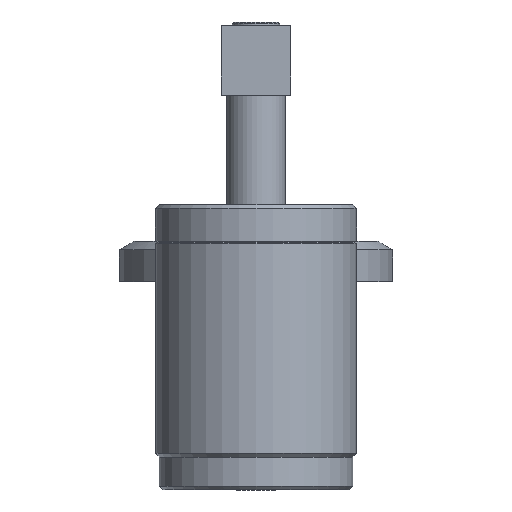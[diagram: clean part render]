
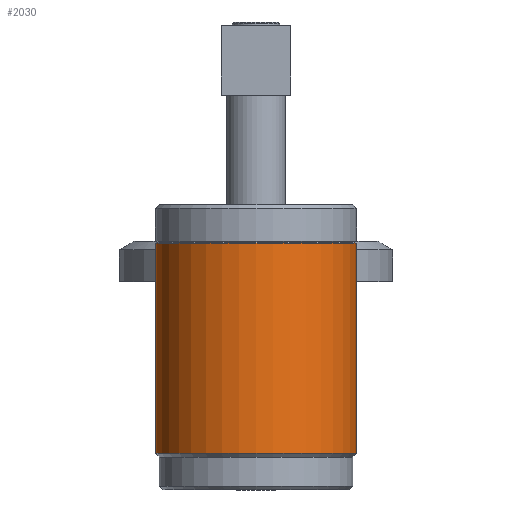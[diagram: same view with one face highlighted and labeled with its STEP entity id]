
A CAD part, left-side view. The second image highlights one B-rep face of the part: STEP entity #2030.
In plain terms, the highlighted cylindrical face has radius 27.5 mm (diameter 55 mm), a full revolution.
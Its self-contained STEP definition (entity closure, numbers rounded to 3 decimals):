
#223=CYLINDRICAL_SURFACE('',#2214,27.5);
#507=ORIENTED_EDGE('',*,*,#676,.F.);
#508=ORIENTED_EDGE('',*,*,#675,.T.);
#675=EDGE_CURVE('',#790,#790,#867,.T.);
#676=EDGE_CURVE('',#791,#791,#868,.T.);
#790=VERTEX_POINT('',#3147);
#791=VERTEX_POINT('',#3150);
#867=CIRCLE('',#2213,27.5);
#868=CIRCLE('',#2215,27.5);
#1010=EDGE_LOOP('',(#507));
#1011=EDGE_LOOP('',(#508));
#1168=FACE_BOUND('',#1010,.T.);
#1169=FACE_BOUND('',#1011,.T.);
#2030=ADVANCED_FACE('',(#1168,#1169),#223,.T.);
#2213=AXIS2_PLACEMENT_3D('',#3146,#2588,#2589);
#2214=AXIS2_PLACEMENT_3D('',#3148,#2590,#2591);
#2215=AXIS2_PLACEMENT_3D('',#3149,#2592,#2593);
#2588=DIRECTION('',(0.,0.,1.));
#2589=DIRECTION('',(1.,0.,0.));
#2590=DIRECTION('',(0.,0.,1.));
#2591=DIRECTION('',(1.,0.,0.));
#2592=DIRECTION('',(0.,0.,1.));
#2593=DIRECTION('',(1.,0.,0.));
#3146=CARTESIAN_POINT('',(0.,0.,10.));
#3147=CARTESIAN_POINT('',(27.5,0.,10.));
#3148=CARTESIAN_POINT('',(0.,0.,141.5));
#3149=CARTESIAN_POINT('',(0.,0.,67.5));
#3150=CARTESIAN_POINT('',(27.5,0.,67.5));
